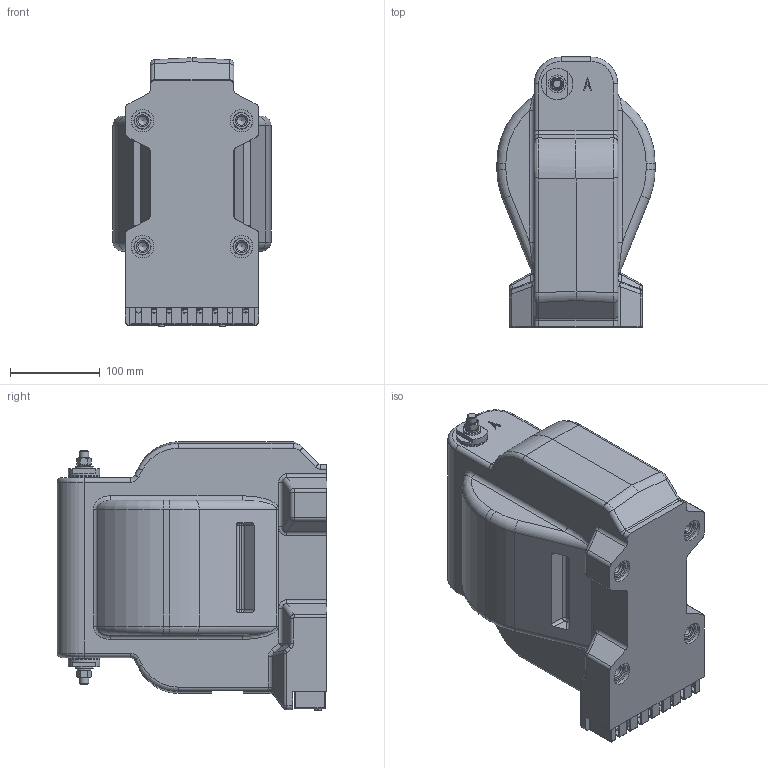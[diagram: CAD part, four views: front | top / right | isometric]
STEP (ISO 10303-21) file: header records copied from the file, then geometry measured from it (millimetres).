
FILE_DESCRIPTION(('STEP AP214'), '1');
FILE_NAME('ﾎﾋﾑﾏ-ﾍﾒﾇ-1,25_6(10)-01 ﾓﾕﾋ2(ﾒ2)', '2024-06-11T06:24:37', ('UNSPECIFIED'), ('UNSPECIFIED'), 'ASCON STEP Converter 1.3', 'ASCON Math Kernel', '');
FILE_SCHEMA(('AUTOMOTIVE_DESIGN { 1 0 10303 214 3 1 1}'));
Length unit declared in the file: millimetre
Products named in the file (20): ﾍﾒﾇ.01.01.10.00.001
Assembly tree (38 placements, depth 2):
  (unnamed)
    (unnamed)  x2
    (unnamed)
    (unnamed)
    (unnamed)  x6
    ﾍﾒﾇ.01.01.10.00.001  x4
    ﾍﾒﾇ.01.01.10.00.001  x2
    (unnamed)  x2
    (unnamed)  x2
    (unnamed)  x2
    (unnamed)  x2
    (unnamed)  x5
    (unnamed)
    (unnamed)
    (unnamed)
    (unnamed)
    (unnamed)  x2
    (unnamed)
    (unnamed)
    (unnamed)
Bounding box: 176 x 300.01 x 298.6 mm (x, y, z)
Volume: 5212598.5 mm3; surface area: 645510.4 mm2
Topology: 38 solids, 39 shells, 1669 faces, 4219 edges, 2716 vertices
Faces by surface type: cylinder 809, plane 657, cone 93, torus 60, bspline 46, sphere 4
Full cylindrical faces by diameter (mm): 3.24 x2, 4 x8, 4.5 x2, 6 x14, 6.4 x6, 7 x2, 7.5 x2, 8 x6, 8.376 x2, 8.5 x6, 9.5 x2, 10 x26, 10.106 x4, 11 x2, 12 x6, 15 x8, 16 x4, 16.5 x2, 17.3 x2, 19 x16, 20 x5, 30.004 x2, 35 x8, 108 x1, 158 x2
Entity records: 60702 total; most frequent: CARTESIAN_POINT 11061, DIRECTION 8024, ORIENTED_EDGE 7400, EDGE_CURVE 3700, AXIS2_PLACEMENT_3D 3016, VERTEX_POINT 2471, LINE 1992, VECTOR 1992
